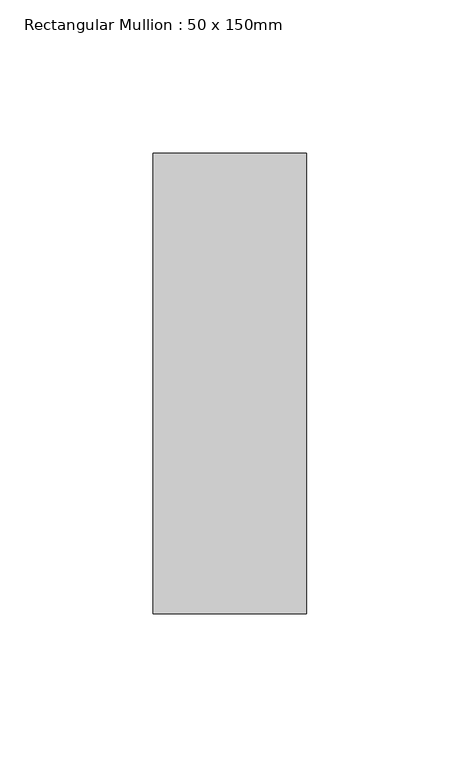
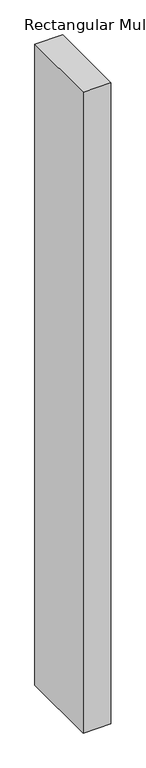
"""IFC4 building model written with IfcOpenShell, lengths in millimetres: member geometry, Rectangular Mullion : 50 x 150mm."""

from ifc_helpers import new_model, si_unit, frame, origin, place, context, project, spatial, polyline, outline, extrude, source, transform, mapped, element, save


def rectangular_mullion_50_x_150mm_0c8b093c(model_context):
    return source(origin(), model_context, "Body", "SweptSolid", [
        extrude(outline(polyline([(0.0, 75.0), (0.0, -75.0), (-50.0, -75.0), (-50.0, 75.0), (0.0, 75.0)])), frame((0.0, 0.0, -1217.4207568), z_axis=(0.0, 0.0, 1.0), x_axis=(1.0, 0.0, 0.0)), (0.0, 0.0, 1.0), 1217.4207568),
    ])


if __name__ == "__main__":
    model = new_model("IFC4")
    model_context = context("Model", 3, world=origin())
    ifc_project = project(units=[si_unit("LENGTHUNIT", "METRE", prefix="MILLI")], contexts=[model_context])
    site = spatial("IfcSite", under=ifc_project)
    building = spatial("IfcBuilding", under=site)
    placement = place(None, origin())
    rectangular_mullion_50_x_150mm_shape = rectangular_mullion_50_x_150mm_0c8b093c(model_context)
    element("IfcMember", 1, ObjectType="Rectangular Mullion : 50 x 150mm", at=placement, inside=building, context=model_context, shape_type="MappedRepresentation", body=[
        mapped(rectangular_mullion_50_x_150mm_shape, transform((0.0, 0.0, 0.0), x_axis=(1.0, 0.0, 0.0), y_axis=(0.0, 1.0, 0.0), z_axis=(0.0, 0.0, 1.0))),
    ])
    save(model, "model.ifc")
